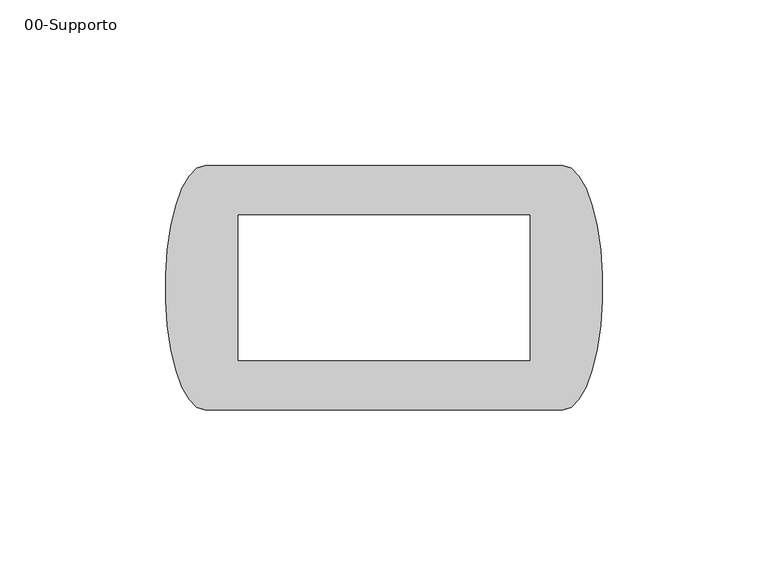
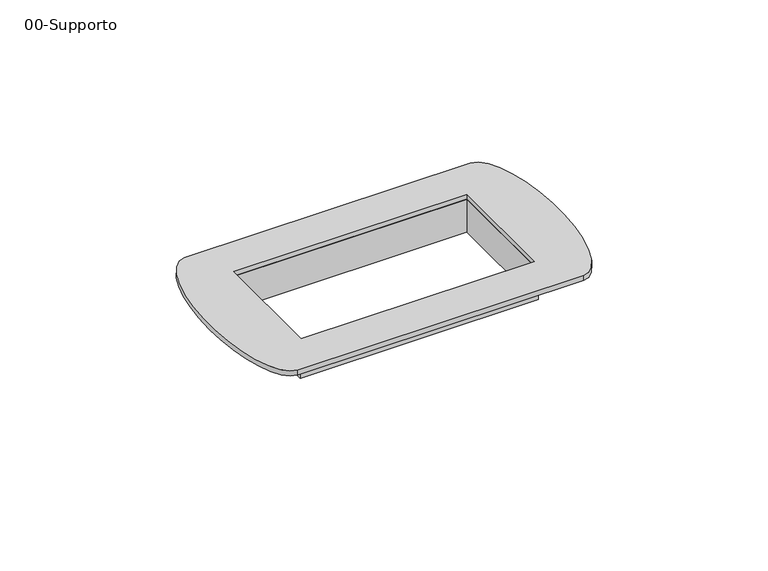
"""IFC4 building model written with IfcOpenShell, lengths in millimetres: proxy geometry, 00-Supporto : Supporto 4 moduli."""

from ifc_helpers import new_model, si_unit, point, frame, origin, place, context, project, spatial, polyline, ellipse_curve, trimmed, outline, extrude, source, transform, mapped, element, save
from ifc_brep_helpers import plane_surface, extruded_surface, advanced_brep


def proxy_00_supporto_6bdeb6a4(model_context):
    return source(origin(), model_context, "Body", "SolidModel", [
        extrude(outline(polyline([(45.0, -23.0), (-45.0, -23.0), (-45.0, 23.0), (45.0, 23.0), (45.0, -23.0)]), holes=[polyline([(-44.0, 22.0), (-44.0, -22.0), (44.0, -22.0), (44.0, 22.0), (-44.0, 22.0)])]), frame((0.0, 0.0, -13.0), z_axis=(0.0, 0.0, 1.0), x_axis=(1.0, 0.0, 0.0)), (0.0, 0.0, 1.0), 13.0),
        advanced_brep(
        [(54.0, 37.0, 2.0), (-54.0, 37.0, 2.0), (-54.0, -37.0, 2.0), (54.0, -37.0, 2.0), (-44.0, -22.0, 2.0), (-44.0, 22.0, 2.0), (44.0, 22.0, 2.0), (44.0, -22.0, 2.0), (54.0, 37.0, 0.0), (54.0, -37.0, 0.0), (-54.0, -37.0, 0.0), (-54.0, 37.0, 0.0), (-44.0, -22.0, 0.0), (44.0, -22.0, 0.0), (44.0, 22.0, 0.0), (-44.0, 22.0, 0.0)],
        [
            (0, 1),
            (1, 2, ellipse_curve(frame((-54.0, 0.0, 2.0), z_axis=(0.0, 0.0, 1.0), x_axis=(0.0, -1.0, 0.0)), 37.0, 12.0)),
            (2, 3),
            (3, 0, ellipse_curve(frame((54.0, 0.0, 2.0), z_axis=(0.0, 0.0, 1.0), x_axis=(0.0, 1.0, 0.0)), 37.0, 12.0)),
            (4, 5),
            (5, 6),
            (6, 7),
            (7, 4),
            (8, 9, ellipse_curve(frame((54.0, 0.0, 0.0), z_axis=(0.0, 0.0, -1.0), x_axis=(0.0, 1.0, 0.0)), 37.0, 12.0)),
            (9, 10),
            (10, 11, ellipse_curve(frame((-54.0, 0.0, 0.0), z_axis=(0.0, 0.0, -1.0), x_axis=(0.0, -1.0, 0.0)), 37.0, 12.0)),
            (11, 8),
            (12, 13),
            (13, 14),
            (14, 15),
            (15, 12),
            (0, 8),
            (11, 1),
            (2, 10),
            (9, 3),
            (4, 12),
            (15, 5),
            (14, 6),
            (13, 7),
        ],
        [
            plane_surface(frame((-54.0, 37.0, 2.0), z_axis=(0.0, 0.0, 1.0), x_axis=(-1.0, 0.0, 0.0))),
            plane_surface(frame((-54.0, 37.0, 0.0), z_axis=(0.0, 0.0, -1.0), x_axis=(1.0, 0.0, 0.0))),
            plane_surface(frame((54.0, 37.0, 2.0), z_axis=(0.0, 1.0, 0.0), x_axis=(0.0, 0.0, -1.0))),
            plane_surface(frame((-54.0, -37.0, 2.0), z_axis=(0.0, -1.0, 0.0), x_axis=(0.0, 0.0, -1.0))),
            plane_surface(frame((-44.0, -22.0, 2.0), z_axis=(1.0, 0.0, 0.0), x_axis=(0.0, 0.0, -1.0))),
            plane_surface(frame((-44.0, 22.0, 2.0), z_axis=(0.0, -1.0, 0.0), x_axis=(0.0, 0.0, -1.0))),
            plane_surface(frame((44.0, 22.0, 2.0), z_axis=(-1.0, 0.0, 0.0), x_axis=(0.0, 0.0, -1.0))),
            plane_surface(frame((44.0, -22.0, 2.0), z_axis=(0.0, 1.0, 0.0), x_axis=(0.0, 0.0, -1.0))),
            extruded_surface(trimmed(ellipse_curve(frame((54.0, 0.0, -2.0), z_axis=(0.0, 0.0, 1.0), x_axis=(0.0, 1.0, 0.0)), 37.0, 12.0), [point((54.0, -37.0, -2.0))], [point((54.0, 37.0, -2.0))], True, "CARTESIAN"), (0.0, 0.0, 2.0), 2.0),
            extruded_surface(trimmed(ellipse_curve(frame((-54.0, 0.0, -2.0), z_axis=(0.0, 0.0, 1.0), x_axis=(0.0, -1.0, 0.0)), 37.0, 12.0), [point((-54.0, 37.0, -2.0))], [point((-54.0, -37.0, -2.0))], True, "CARTESIAN"), (0.0, 0.0, 2.0), 2.0),
        ],
        [
            (0, [[1, 2, 3, 4], [5, 6, 7, 8]]),
            (1, [[9, 10, 11, 12], [13, 14, 15, 16]]),
            (2, [[-1, 17, -12, 18]]),
            (3, [[-3, 19, -10, 20]]),
            (4, [[-5, 21, -16, 22]]),
            (5, [[-6, -22, -15, 23]]),
            (6, [[-7, -23, -14, 24]]),
            (7, [[-8, -24, -13, -21]]),
            (8, [[-4, -20, -9, -17]]),
            (9, [[-2, -18, -11, -19]]),
        ],
    ),
    ])


if __name__ == "__main__":
    model = new_model("IFC4")
    model_context = context("Model", 3, world=origin())
    ifc_project = project(units=[si_unit("LENGTHUNIT", "METRE", prefix="MILLI")], contexts=[model_context])
    site = spatial("IfcSite", under=ifc_project)
    building = spatial("IfcBuilding", under=site)
    placement = place(None, origin())
    proxy_00_supporto_shape = proxy_00_supporto_6bdeb6a4(model_context)
    element("IfcBuildingElementProxy", 1, Name="00-Supporto : Supporto 4 moduli", ObjectType="00-Supporto : Supporto 4 moduli", at=placement, inside=building, context=model_context, shape_type="MappedRepresentation", body=[
        mapped(proxy_00_supporto_shape, transform((0.0, 0.0, 0.0), x_axis=(1.0, 0.0, 0.0), y_axis=(0.0, 1.0, 0.0), z_axis=(0.0, 0.0, 1.0))),
    ])
    save(model, "model.ifc")
